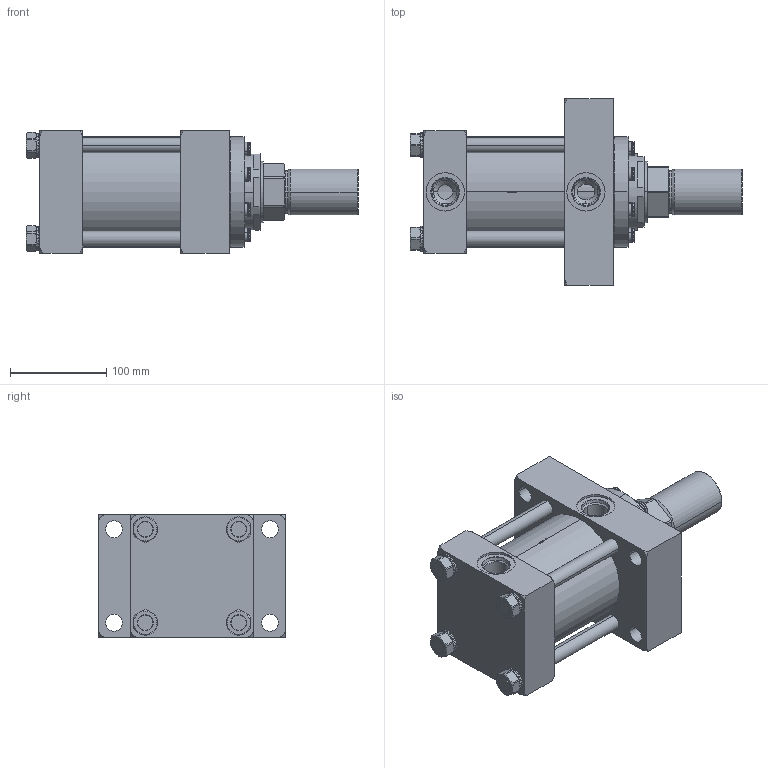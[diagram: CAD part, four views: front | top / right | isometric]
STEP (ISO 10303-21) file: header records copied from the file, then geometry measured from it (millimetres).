
FILE_DESCRIPTION (( 'STEP AP214' ), '1' );
FILE_NAME ('4.00JJ2HHNAT124A2.000.step', '2026-03-26T21:19:14', ( '' ), ( '' ), 'SwSTEP 2.0', 'SolidWorks 2023', '' );
FILE_SCHEMA (( 'AUTOMOTIVE_DESIGN' ));
Length unit declared in the file: inch
Products named in the file (1): 4.00JJ2HHNAT124A2.000
Bounding box: 344.49 x 193.68 x 127 mm (x, y, z)
Volume: 3075571.4 mm3; surface area: 466489 mm2
Topology: 40 solids, 40 shells, 1835 faces, 4862 edges, 3118 vertices
Faces by surface type: plane 825, cylinder 751, cone 229, bspline 22, torus 8
Entity records: 84386 total; most frequent: CARTESIAN_POINT 15465, ORIENTED_EDGE 9644, DIRECTION 9126, EDGE_CURVE 4822, AXIS2_PLACEMENT_3D 3534, VERTEX_POINT 3118, LINE 2058, VECTOR 2058
